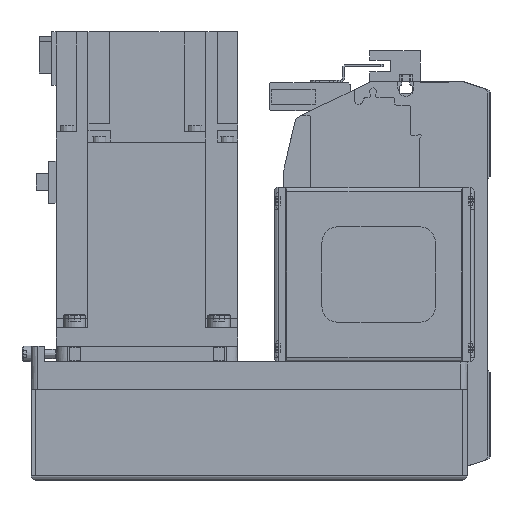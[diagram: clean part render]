
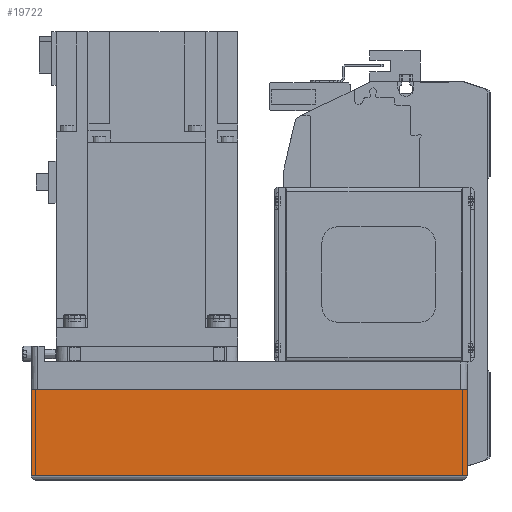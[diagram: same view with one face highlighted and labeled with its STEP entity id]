
A CAD part, left-side view. The second image highlights one B-rep face of the part: STEP entity #19722.
In plain terms, the highlighted planar face has unit normal (-1, 0, 0) as drawn and (0, -1, 0) by its records, which use the part's own axes.
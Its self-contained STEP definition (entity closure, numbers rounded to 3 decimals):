
#3048=ORIENTED_EDGE('',*,*,#7945,.F.);
#3049=ORIENTED_EDGE('',*,*,#7929,.F.);
#3050=ORIENTED_EDGE('',*,*,#7922,.T.);
#3051=ORIENTED_EDGE('',*,*,#7992,.T.);
#7922=EDGE_CURVE('',#10545,#10544,#12568,.T.);
#7929=EDGE_CURVE('',#10545,#10551,#12575,.T.);
#7945=EDGE_CURVE('',#10551,#10565,#12591,.T.);
#7992=EDGE_CURVE('',#10544,#10565,#12612,.T.);
#10544=VERTEX_POINT('',#30233);
#10545=VERTEX_POINT('',#30235);
#10551=VERTEX_POINT('',#30250);
#10565=VERTEX_POINT('',#30283);
#12568=LINE('',#30234,#14294);
#12575=LINE('',#30249,#14301);
#12591=LINE('',#30282,#14317);
#12612=LINE('',#30363,#14338);
#14294=VECTOR('',#24184,1000.);
#14301=VECTOR('',#24195,1000.);
#14317=VECTOR('',#24217,1000.);
#14338=VECTOR('',#24326,1000.);
#15882=EDGE_LOOP('',(#3048,#3049,#3050,#3051));
#17494=FACE_BOUND('',#15882,.T.);
#18937=PLANE('',#21145);
#19722=ADVANCED_FACE('',(#17494),#18937,.T.);
#21145=AXIS2_PLACEMENT_3D('',#30364,#24327,#24328);
#24184=DIRECTION('',(0.,0.,-1.));
#24195=DIRECTION('',(1.,0.,0.));
#24217=DIRECTION('',(0.,0.,-1.));
#24326=DIRECTION('',(1.,0.,0.));
#24327=DIRECTION('',(0.,-1.,0.));
#24328=DIRECTION('',(0.,0.,-1.));
#30233=CARTESIAN_POINT('',(-192.,-40.,-50.));
#30234=CARTESIAN_POINT('',(-192.,-40.,-12.1));
#30235=CARTESIAN_POINT('',(-192.,-40.,-12.1));
#30249=CARTESIAN_POINT('',(-192.,-40.,-12.1));
#30250=CARTESIAN_POINT('',(0.,-40.,-12.1));
#30282=CARTESIAN_POINT('',(0.,-40.,-12.1));
#30283=CARTESIAN_POINT('',(0.,-40.,-50.));
#30363=CARTESIAN_POINT('',(-192.,-40.,-50.));
#30364=CARTESIAN_POINT('',(-192.,-40.,-12.1));
